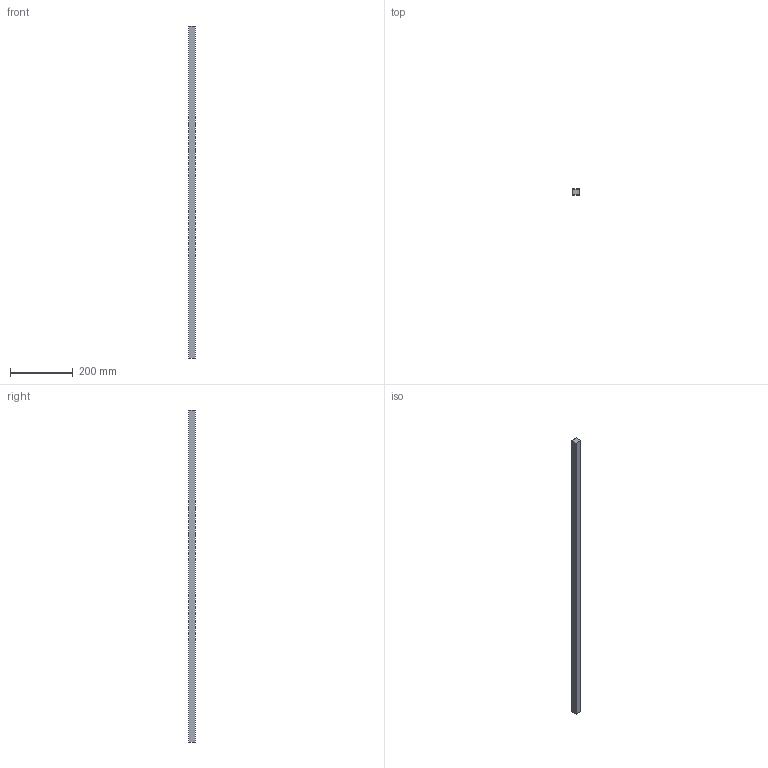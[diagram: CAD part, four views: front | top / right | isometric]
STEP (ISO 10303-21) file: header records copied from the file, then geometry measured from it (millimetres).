
FILE_DESCRIPTION (( 'STEP AP214' ), '1' );
FILE_NAME ('106.STEP', '2018-03-02T14:50:13', ( 'Utente' ), ( '' ), 'SwSTEP 2.0', 'SolidWorks 2016', '' );
FILE_SCHEMA (( 'AUTOMOTIVE_DESIGN' ));
Length unit declared in the file: millimetre
Products named in the file (3): schermo tru sospesaMARTI-1^106; profili - spigoloMARTI-1^106; 106
Assembly tree (2 placements, depth 2):
  106
    profili - spigoloMARTI-1^106
    schermo tru sospesaMARTI-1^106
Bounding box: 20 x 20 x 1060 mm (x, y, z)
Volume: 409372 mm3; surface area: 122378.2 mm2
Topology: 2 solids, 2 shells, 18 faces, 42 edges, 28 vertices
Faces by surface type: plane 18
Entity records: 616 total; most frequent: CARTESIAN_POINT 93, DIRECTION 88, ORIENTED_EDGE 84, EDGE_CURVE 42, LINE 42, VECTOR 42, VERTEX_POINT 28, AXIS2_PLACEMENT_3D 23
